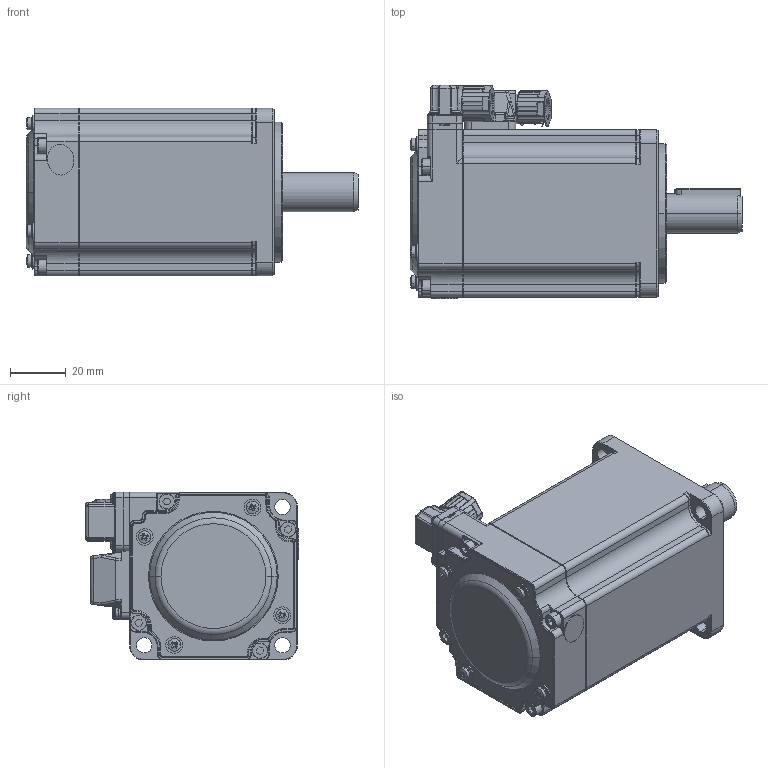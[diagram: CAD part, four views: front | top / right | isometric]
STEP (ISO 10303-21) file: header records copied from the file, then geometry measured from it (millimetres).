
FILE_DESCRIPTION (( 'STEP AP214' ), '1' );
FILE_NAME ('萇儂郪璃-呿脣.STEP', '2021-12-26T11:33:01', ( '' ), ( '' ), 'SwSTEP 2.0', 'SolidWorks 2021', '' );
FILE_SCHEMA (( 'AUTOMOTIVE_DESIGN' ));
Length unit declared in the file: millimetre
Products named in the file (1): 萇儂郪璃-呿脣
Bounding box: 118.8 x 76.3 x 60.1 mm (x, y, z)
Surface area: 36649.8 mm2 (no closed solid volume)
Topology: 0 solids, 38 shells, 1393 faces, 4435 edges, 2929 vertices
Faces by surface type: plane 527, cylinder 505, bspline 122, torus 120, cone 97, sphere 22
Entity records: 68178 total; most frequent: CARTESIAN_POINT 15713, DIRECTION 7569, ORIENTED_EDGE 7411, EDGE_CURVE 4427, VERTEX_POINT 2927, AXIS2_PLACEMENT_3D 2894, LINE 1781, VECTOR 1781
